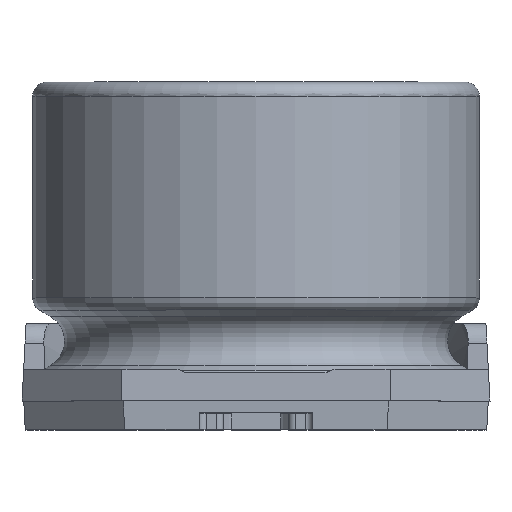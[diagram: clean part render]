
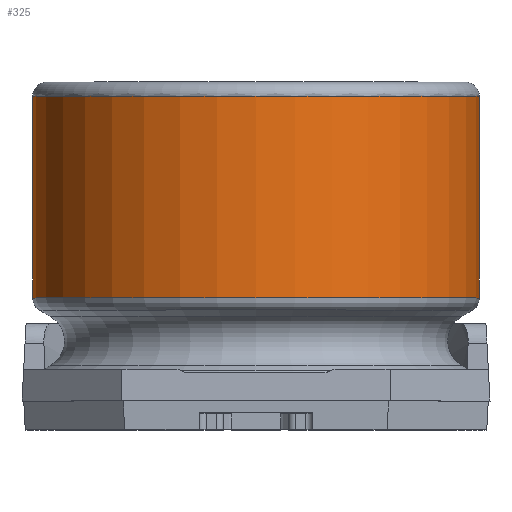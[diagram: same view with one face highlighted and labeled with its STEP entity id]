
A CAD part, top view. The second image highlights one B-rep face of the part: STEP entity #325.
In plain terms, the highlighted cylindrical face has radius 3.15 mm (diameter 6.3 mm), a full revolution.
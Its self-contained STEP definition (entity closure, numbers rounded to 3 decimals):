
#44 = EDGE_CURVE ( 'NONE', #3776, #3776, #2794, .T. ) ;
#302 = ORIENTED_EDGE ( 'NONE', *, *, #4789, .T. ) ;
#325 = ADVANCED_FACE ( 'NONE', ( #4759, #1341 ), #4133, .T. ) ;
#849 = AXIS2_PLACEMENT_3D ( 'NONE', #3274, #4447, #4477 ) ;
#1137 = VERTEX_POINT ( 'NONE', #2736 ) ;
#1254 = AXIS2_PLACEMENT_3D ( 'NONE', #2822, #2486, #3641 ) ;
#1341 = FACE_OUTER_BOUND ( 'NONE', #4455, .T. ) ;
#1470 = CARTESIAN_POINT ( 'NONE',  ( 0., 0., 0. ) ) ;
#1630 = CIRCLE ( 'NONE', #849, 3.15 ) ;
#1849 = DIRECTION ( 'NONE',  ( 0., 0., -1. ) ) ;
#2486 = DIRECTION ( 'NONE',  ( 0., -1., 0. ) ) ;
#2631 = AXIS2_PLACEMENT_3D ( 'NONE', #1470, #4852, #1849 ) ;
#2736 = CARTESIAN_POINT ( 'NONE',  ( 0., 4.3, -3.15 ) ) ;
#2794 = CIRCLE ( 'NONE', #1254, 3.15 ) ;
#2822 = CARTESIAN_POINT ( 'NONE',  ( 0., 1.456, 0. ) ) ;
#3274 = CARTESIAN_POINT ( 'NONE',  ( 0., 4.3, 0. ) ) ;
#3424 = CARTESIAN_POINT ( 'NONE',  ( 0., 1.456, -3.15 ) ) ;
#3641 = DIRECTION ( 'NONE',  ( 0., 0., -1. ) ) ;
#3766 = ORIENTED_EDGE ( 'NONE', *, *, #44, .F. ) ;
#3776 = VERTEX_POINT ( 'NONE', #3424 ) ;
#4133 = CYLINDRICAL_SURFACE ( 'NONE', #2631, 3.15 ) ;
#4151 = EDGE_LOOP ( 'NONE', ( #302 ) ) ;
#4447 = DIRECTION ( 'NONE',  ( 0., -1., 0. ) ) ;
#4455 = EDGE_LOOP ( 'NONE', ( #3766 ) ) ;
#4477 = DIRECTION ( 'NONE',  ( 0., 0., -1. ) ) ;
#4759 = FACE_OUTER_BOUND ( 'NONE', #4151, .T. ) ;
#4789 = EDGE_CURVE ( 'NONE', #1137, #1137, #1630, .T. ) ;
#4852 = DIRECTION ( 'NONE',  ( 0., -1., 0. ) ) ;
